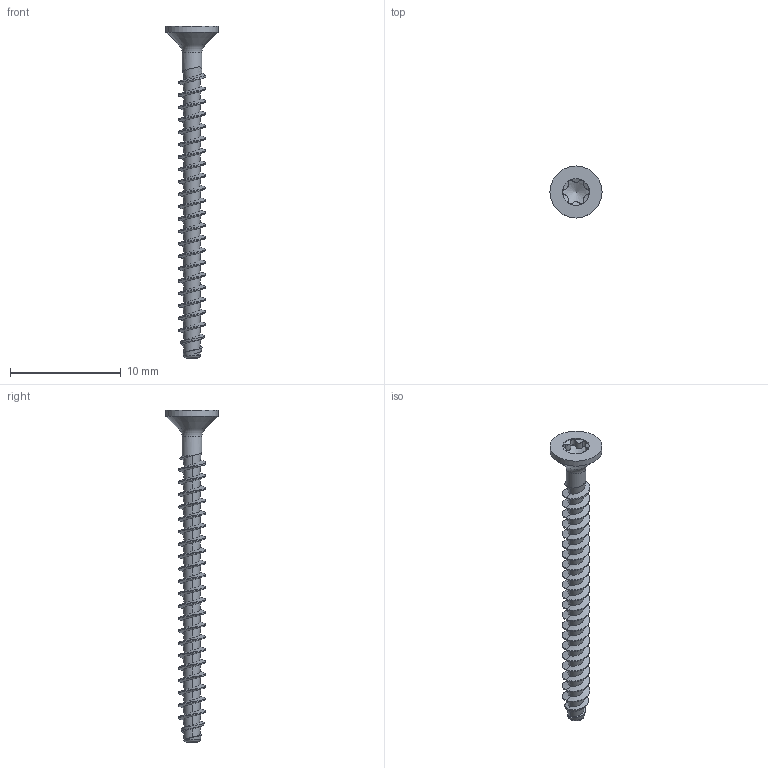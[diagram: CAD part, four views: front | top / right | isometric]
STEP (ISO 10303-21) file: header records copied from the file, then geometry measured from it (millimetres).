
FILE_DESCRIPTION(/* description */ (''),/* implementation_level */ '2;1');
FILE_NAME(/* name */ 'KN1041-STS-25x30-T8.step',/* time_stamp */ '2017-10-17T14:11:57+02:00',/* author */ (''),/* organization */ (''),/* preprocessor_version */ 'ST-DEVELOPER v16',/* originating_system */ 'SIEMENS PLM Software NX 10.0',/* authorisation */ '');
FILE_SCHEMA (('AUTOMOTIVE_DESIGN { 1 0 10303 214 3 1 1 1 }'));
Length unit declared in the file: millimetre
Products named in the file (1): KN1041-STS-25x30-T8
Bounding box: 4.7 x 4.7 x 30 mm (x, y, z)
Volume: 83.9 mm3; surface area: 309.9 mm2
Topology: 1 solids, 1 shells, 97 faces, 236 edges, 141 vertices
Faces by surface type: bspline 72, cylinder 16, cone 5, torus 2, plane 2
Full cylindrical faces by diameter (mm): 1.8 x1, 2.42 x1, 4.7 x1
Entity records: 7766 total; most frequent: CARTESIAN_POINT 6035, ORIENTED_EDGE 444, EDGE_CURVE 222, DIRECTION 155, VERTEX_POINT 136, B_SPLINE_CURVE_WITH_KNOTS 130, EDGE_LOOP 105, ADVANCED_FACE 97
